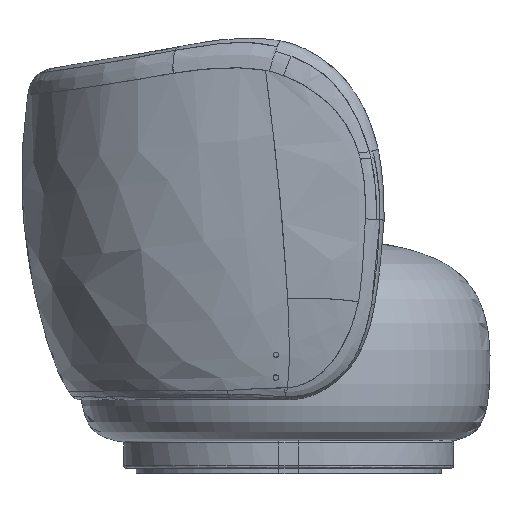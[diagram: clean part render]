
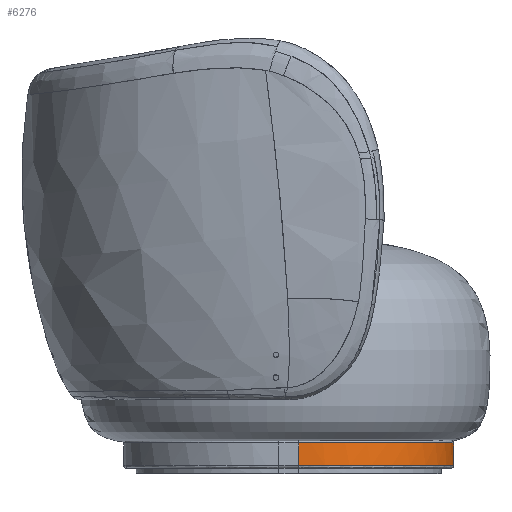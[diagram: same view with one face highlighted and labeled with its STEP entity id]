
A CAD part, left-side view. The second image highlights one B-rep face of the part: STEP entity #6276.
In plain terms, the highlighted free-form (B-spline) face has degree [2, 1] with [9, 2] control points.
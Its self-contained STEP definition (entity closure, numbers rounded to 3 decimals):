
#1831=B_SPLINE_CURVE_WITH_KNOTS('',1,(#142312,#142313),.UNSPECIFIED.,.F.,
 .F.,(2,2),(0.,40.),.UNSPECIFIED.);
#1832=B_SPLINE_CURVE_WITH_KNOTS('',1,(#142317,#142318),.UNSPECIFIED.,.F.,
 .F.,(2,2),(0.,40.),.UNSPECIFIED.);
#6276=ADVANCED_FACE('',(#7031),#21655,.T.);
#7031=FACE_OUTER_BOUND('',#7808,.T.);
#7808=EDGE_LOOP('',(#10114,#10115,#10116,#10117));
#10114=ORIENTED_EDGE('',*,*,#14236,.T.);
#10115=ORIENTED_EDGE('',*,*,#14237,.T.);
#10116=ORIENTED_EDGE('',*,*,#14238,.T.);
#10117=ORIENTED_EDGE('',*,*,#14239,.T.);
#14236=EDGE_CURVE('',#19210,#19211,#16853,.T.);
#14237=EDGE_CURVE('',#19211,#19212,#1831,.T.);
#14238=EDGE_CURVE('',#19212,#19213,#16854,.T.);
#14239=EDGE_CURVE('',#19213,#19210,#1832,.T.);
#16853=(
BOUNDED_CURVE()
B_SPLINE_CURVE(2,(#142309,#142310,#142311),.UNSPECIFIED.,.F.,.F.)
B_SPLINE_CURVE_WITH_KNOTS((3,3),(0.,550.),.UNSPECIFIED.)
CURVE()
GEOMETRIC_REPRESENTATION_ITEM()
RATIONAL_B_SPLINE_CURVE((1.,0.707,1.))
REPRESENTATION_ITEM('')
);
#16854=(
BOUNDED_CURVE()
B_SPLINE_CURVE(2,(#142314,#142315,#142316),.UNSPECIFIED.,.F.,.F.)
B_SPLINE_CURVE_WITH_KNOTS((3,3),(0.,550.),.UNSPECIFIED.)
CURVE()
GEOMETRIC_REPRESENTATION_ITEM()
RATIONAL_B_SPLINE_CURVE((1.,0.707,1.))
REPRESENTATION_ITEM('')
);
#19210=VERTEX_POINT('',#142305);
#19211=VERTEX_POINT('',#142306);
#19212=VERTEX_POINT('',#142307);
#19213=VERTEX_POINT('',#142308);
#21655=(
BOUNDED_SURFACE()
B_SPLINE_SURFACE(2,1,((#142287,#142288),(#142289,#142290),(#142291,#142292),
(#142293,#142294),(#142295,#142296),(#142297,#142298),(#142299,#142300),
(#142301,#142302),(#142303,#142304)),.UNSPECIFIED.,.T.,.F.,.F.)
B_SPLINE_SURFACE_WITH_KNOTS((3,2,2,2,3),(2,2),(0.,431.969,863.938,
1295.907,1727.876),(0.,48.),.UNSPECIFIED.)
GEOMETRIC_REPRESENTATION_ITEM()
RATIONAL_B_SPLINE_SURFACE(((1.,1.),(0.707,0.707),
(1.,1.),(0.707,0.707),(1.,1.),(0.707,
0.707),(1.,1.),(0.707,0.707),(1.,1.)))
REPRESENTATION_ITEM('')
SURFACE()
);
#142287=CARTESIAN_POINT('',(-421.805,831.876,63.344));
#142288=CARTESIAN_POINT('',(-421.805,831.876,15.344));
#142289=CARTESIAN_POINT('',(-146.805,831.876,63.344));
#142290=CARTESIAN_POINT('',(-146.805,831.876,15.344));
#142291=CARTESIAN_POINT('',(-146.805,556.876,63.344));
#142292=CARTESIAN_POINT('',(-146.805,556.876,15.344));
#142293=CARTESIAN_POINT('',(-146.805,281.876,63.344));
#142294=CARTESIAN_POINT('',(-146.805,281.876,15.344));
#142295=CARTESIAN_POINT('',(-421.805,281.876,63.344));
#142296=CARTESIAN_POINT('',(-421.805,281.876,15.344));
#142297=CARTESIAN_POINT('',(-696.805,281.876,63.344));
#142298=CARTESIAN_POINT('',(-696.805,281.876,15.344));
#142299=CARTESIAN_POINT('',(-696.805,556.876,63.344));
#142300=CARTESIAN_POINT('',(-696.805,556.876,15.344));
#142301=CARTESIAN_POINT('',(-696.805,831.876,63.344));
#142302=CARTESIAN_POINT('',(-696.805,831.876,15.344));
#142303=CARTESIAN_POINT('',(-421.805,831.876,63.344));
#142304=CARTESIAN_POINT('',(-421.805,831.876,15.344));
#142305=CARTESIAN_POINT('',(-421.805,281.876,59.344));
#142306=CARTESIAN_POINT('',(-696.805,556.876,59.344));
#142307=CARTESIAN_POINT('',(-696.805,556.876,19.344));
#142308=CARTESIAN_POINT('',(-421.805,281.876,19.344));
#142309=CARTESIAN_POINT('',(-421.805,281.876,59.344));
#142310=CARTESIAN_POINT('',(-696.805,281.876,59.344));
#142311=CARTESIAN_POINT('',(-696.805,556.876,59.344));
#142312=CARTESIAN_POINT('',(-696.805,556.876,59.344));
#142313=CARTESIAN_POINT('',(-696.805,556.876,19.344));
#142314=CARTESIAN_POINT('',(-696.805,556.876,19.344));
#142315=CARTESIAN_POINT('',(-696.805,281.876,19.344));
#142316=CARTESIAN_POINT('',(-421.805,281.876,19.344));
#142317=CARTESIAN_POINT('',(-421.805,281.876,19.344));
#142318=CARTESIAN_POINT('',(-421.805,281.876,59.344));
